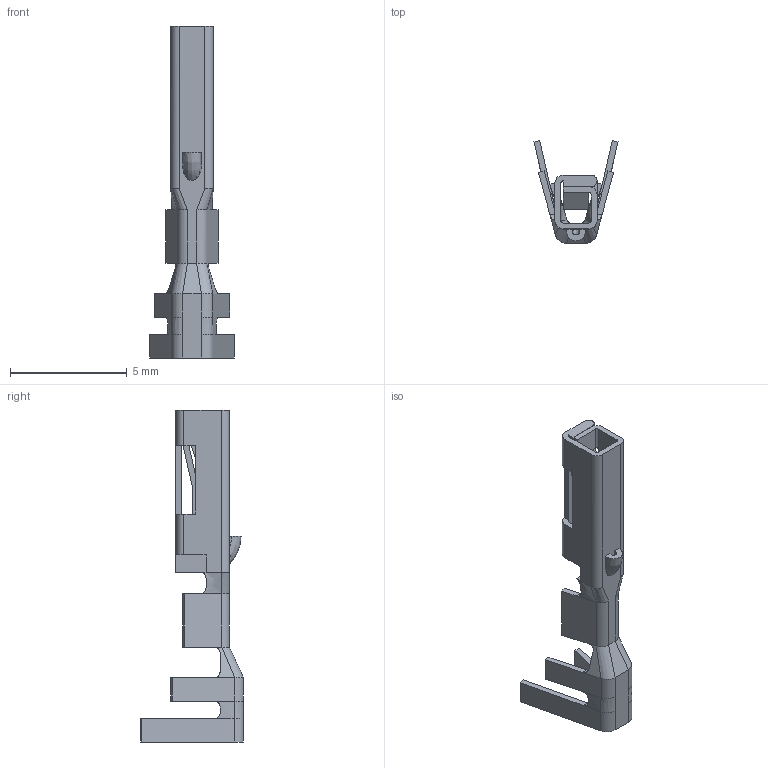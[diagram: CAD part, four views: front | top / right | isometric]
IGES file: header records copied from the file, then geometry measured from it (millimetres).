
Start section:  PTC IGES file: c-175180-1-b2-3d.igs
Global section: file name: c-175180-1-b2-3d.igs; native system: Pro/ENGINEER by Parametric Technology Corporation; preprocessor: 2005450; author: workeradm; organization: Unknown; date: 080903.233423; units: millimetre
Bounding box: 3.6 x 4.4 x 14.2 mm (x, y, z)
Surface area: 196.3 mm2 (no closed solid volume)
Topology: 0 solids, 0 shells, 152 faces, 794 edges, 794 vertices
Faces by surface type: bspline 112, revolution 40
